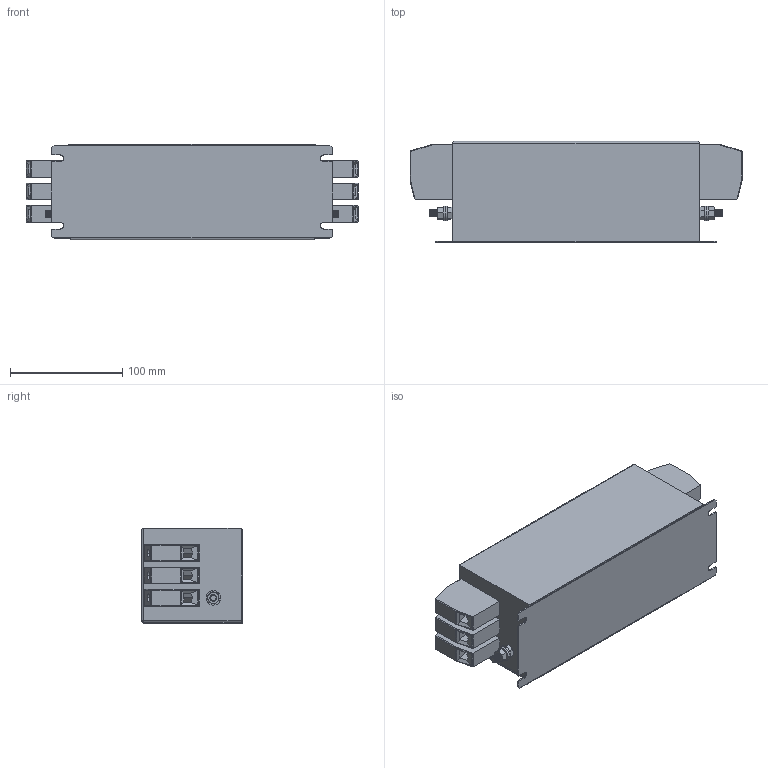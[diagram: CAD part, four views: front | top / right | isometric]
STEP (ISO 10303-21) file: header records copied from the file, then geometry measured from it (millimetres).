
FILE_DESCRIPTION (( 'STEP AP203' ), '1' );
FILE_NAME ('NF-K-55(25).STEP', '2012-02-29T12:10:17', ( 'Owner' ), ( 'EPA' ), 'SwSTEP 2.0', 'SolidWorks 2007', '' );
FILE_SCHEMA (( 'CONFIG_CONTROL_DESIGN' ));
Length unit declared in the file: millimetre
Products named in the file (7): NF-K-55(25); NK-K-55(25); HDFK-25; Hex Screw_AM_B18.6.7M - M6 x 1.0 x 16 Plain HHMS --16S; M6x16 Earth post; Flat Washer Narrow_AM_B18.22M - Plain washer, 6 mm, narrow; Hex Nut Style 1_AM_B18.2.4.1M - Hex nut, Style 1,  M6 x 1 --D-N
Assembly tree (13 placements, depth 3):
  NF-K-55(25)
    HDFK-25  x6
    M6x16 Earth post  x2
      Hex Screw_AM_B18.6.7M - M6 x 1.0 x 16 Plain HHMS --16S
      Flat Washer Narrow_AM_B18.22M - Plain washer, 6 mm, narrow
      Hex Nut Style 1_AM_B18.2.4.1M - Hex nut, Style 1,  M6 x 1 --D-N
    NK-K-55(25)
Bounding box: 296.01 x 90 x 85 mm (x, y, z)
Volume: 1743981.4 mm3; surface area: 189099.6 mm2
Topology: 15 solids, 15 shells, 807 faces, 1929 edges, 1188 vertices
Faces by surface type: plane 480, cone 180, cylinder 145, sphere 2
Entity records: 9583 total; most frequent: CARTESIAN_POINT 1672, DIRECTION 1522, ORIENTED_EDGE 1428, EDGE_CURVE 714, AXIS2_PLACEMENT_3D 550, VERTEX_POINT 444, VECTOR 422, LINE 422
